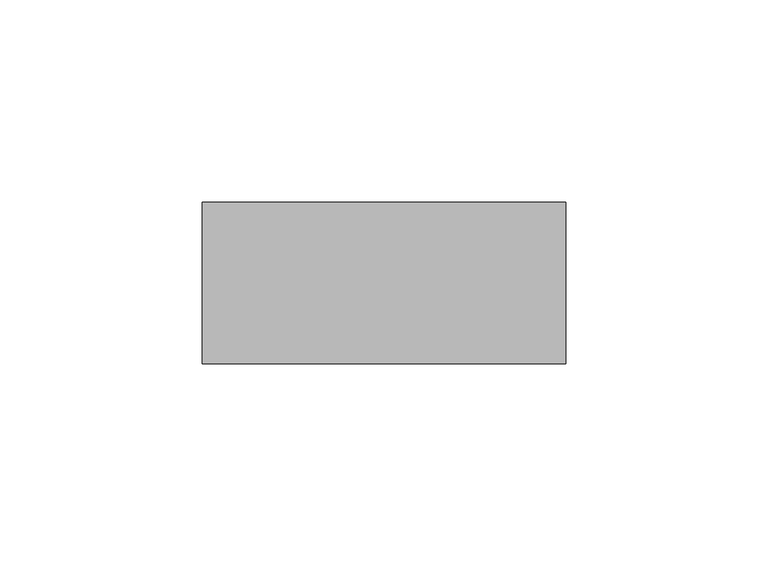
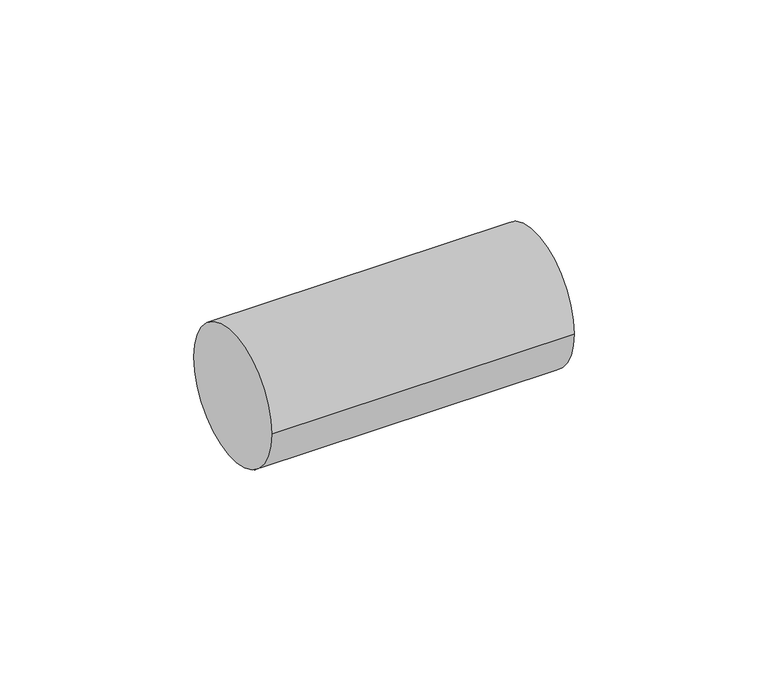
"""IFC4 building model written with IfcOpenShell, lengths in millimetres: valve geometry, EVRA_Термоголовка EVRA MТB140 : EVRA MТB140."""

from ifc_helpers import new_model, si_unit, point, frame, origin, origin_2d, place, context, project, spatial, circle_curve, trimmed, segment, composite_curve, outline, extrude, source, transform, mapped, element, save


def valve_31f837bc(model_context):
    return source(origin(), model_context, "Body", "SweptSolid", [
        extrude(outline(composite_curve([segment(trimmed(circle_curve(origin_2d(), 20.0), [point((-20.0, 0.0))], [point((20.0, 0.0))], False, "CARTESIAN"), True, "CONTINUOUS"), segment(trimmed(circle_curve(origin_2d(), 20.0), [point((20.0, 0.0))], [point((-20.0, 0.0))], False, "CARTESIAN"), True, "CONTINUOUS")], self_intersect=False)), frame((-640.0, 0.0, 0.0), z_axis=(1.0, 0.0, 0.0), x_axis=(0.0, 1.0, 0.0)), (0.0, 0.0, 1.0), 90.0),
    ])


if __name__ == "__main__":
    model = new_model("IFC4")
    model_context = context("Model", 3, world=origin())
    ifc_project = project(units=[si_unit("LENGTHUNIT", "METRE", prefix="MILLI")], contexts=[model_context])
    site = spatial("IfcSite", under=ifc_project)
    building = spatial("IfcBuilding", under=site)
    placement = place(None, origin())
    valve_shape = valve_31f837bc(model_context)
    element("IfcValve", 1, ObjectType="EVRA_Термоголовка EVRA MТB140 : EVRA MТB140", at=placement, inside=building, context=model_context, shape_type="MappedRepresentation", body=[
        mapped(valve_shape, transform((0.0, 0.0, 0.0), x_axis=(1.0, 0.0, 0.0), y_axis=(0.0, 1.0, 0.0), z_axis=(0.0, 0.0, 1.0))),
    ])
    save(model, "model.ifc")
